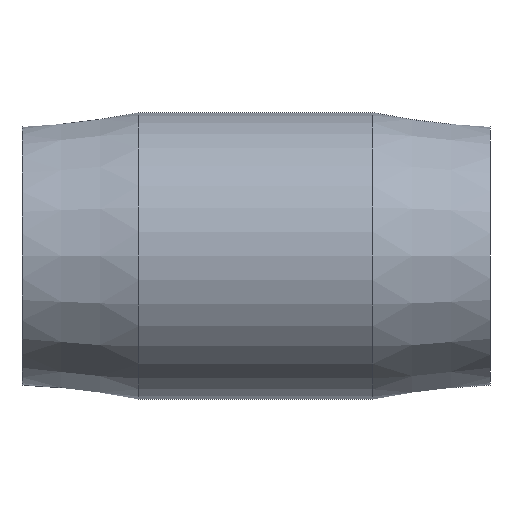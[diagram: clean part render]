
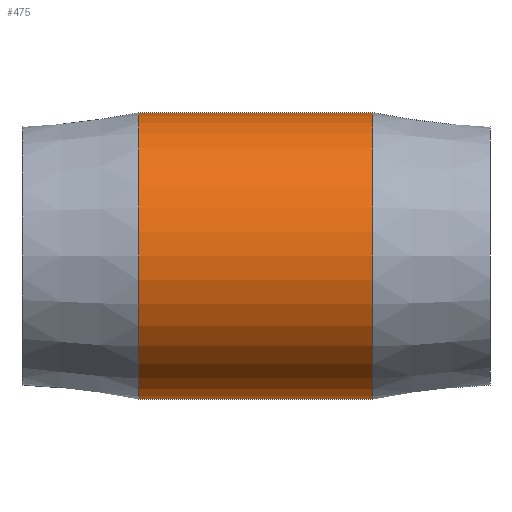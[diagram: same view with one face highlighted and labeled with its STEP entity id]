
A CAD part, front view. The second image highlights one B-rep face of the part: STEP entity #475.
In plain terms, the highlighted cylindrical face has radius 27.559 mm (diameter 55.118 mm), a full revolution.
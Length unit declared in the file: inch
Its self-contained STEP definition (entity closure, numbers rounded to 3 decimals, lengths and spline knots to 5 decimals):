
#47=LINE('',#894,#63);
#63=VECTOR('',#649,1.085);
#77=CYLINDRICAL_SURFACE('',#537,1.085);
#97=FACE_OUTER_BOUND('',#131,.T.);
#131=EDGE_LOOP('',(#357,#358,#359,#360,#361,#362,#363,#364));
#163=CIRCLE('',#533,1.085);
#164=CIRCLE('',#536,1.085);
#165=CIRCLE('',#538,1.085);
#166=CIRCLE('',#539,1.085);
#167=CIRCLE('',#540,1.085);
#168=CIRCLE('',#541,1.085);
#207=VERTEX_POINT('',#785);
#210=VERTEX_POINT('',#810);
#211=VERTEX_POINT('',#839);
#213=VERTEX_POINT('',#851);
#215=VERTEX_POINT('',#891);
#216=VERTEX_POINT('',#893);
#264=EDGE_CURVE('',#210,#207,#163,.T.);
#270=EDGE_CURVE('',#213,#211,#164,.T.);
#271=EDGE_CURVE('',#215,#210,#165,.T.);
#272=EDGE_CURVE('',#215,#216,#47,.T.);
#273=EDGE_CURVE('',#216,#213,#166,.T.);
#274=EDGE_CURVE('',#211,#216,#167,.T.);
#275=EDGE_CURVE('',#207,#215,#168,.T.);
#357=ORIENTED_EDGE('',*,*,#264,.F.);
#358=ORIENTED_EDGE('',*,*,#271,.F.);
#359=ORIENTED_EDGE('',*,*,#272,.T.);
#360=ORIENTED_EDGE('',*,*,#273,.T.);
#361=ORIENTED_EDGE('',*,*,#270,.T.);
#362=ORIENTED_EDGE('',*,*,#274,.T.);
#363=ORIENTED_EDGE('',*,*,#272,.F.);
#364=ORIENTED_EDGE('',*,*,#275,.F.);
#475=ADVANCED_FACE('',(#97),#77,.T.);
#533=AXIS2_PLACEMENT_3D('',#837,#636,#637);
#536=AXIS2_PLACEMENT_3D('',#889,#643,#644);
#537=AXIS2_PLACEMENT_3D('',#890,#645,#646);
#538=AXIS2_PLACEMENT_3D('',#892,#647,#648);
#539=AXIS2_PLACEMENT_3D('',#895,#650,#651);
#540=AXIS2_PLACEMENT_3D('',#896,#652,#653);
#541=AXIS2_PLACEMENT_3D('',#897,#654,#655);
#636=DIRECTION('center_axis',(1.,0.,0.));
#637=DIRECTION('ref_axis',(0.,0.,-1.));
#643=DIRECTION('center_axis',(1.,0.,0.));
#644=DIRECTION('ref_axis',(0.,0.,-1.));
#645=DIRECTION('center_axis',(1.,0.,0.));
#646=DIRECTION('ref_axis',(0.,1.,0.));
#647=DIRECTION('center_axis',(1.,0.,0.));
#648=DIRECTION('ref_axis',(0.,0.,-1.));
#649=DIRECTION('',(-1.,0.,0.));
#650=DIRECTION('center_axis',(1.,0.,0.));
#651=DIRECTION('ref_axis',(0.,0.,-1.));
#652=DIRECTION('center_axis',(1.,0.,0.));
#653=DIRECTION('ref_axis',(0.,0.,-1.));
#654=DIRECTION('center_axis',(1.,0.,0.));
#655=DIRECTION('ref_axis',(0.,0.,-1.));
#785=CARTESIAN_POINT('',(0.885,1.08221,0.0778));
#810=CARTESIAN_POINT('',(0.885,1.08221,-0.0778));
#837=CARTESIAN_POINT('Origin',(0.885,0.,0.));
#839=CARTESIAN_POINT('',(-0.885,1.08221,0.0778));
#851=CARTESIAN_POINT('',(-0.885,1.08221,-0.0778));
#889=CARTESIAN_POINT('Origin',(-0.885,0.,0.));
#890=CARTESIAN_POINT('Origin',(0.,0.,0.));
#891=CARTESIAN_POINT('',(0.885,-1.085,0.));
#892=CARTESIAN_POINT('Origin',(0.885,0.,0.));
#893=CARTESIAN_POINT('',(-0.885,-1.085,0.));
#894=CARTESIAN_POINT('',(0.,-1.085,0.));
#895=CARTESIAN_POINT('Origin',(-0.885,0.,0.));
#896=CARTESIAN_POINT('Origin',(-0.885,0.,0.));
#897=CARTESIAN_POINT('Origin',(0.885,0.,0.));
